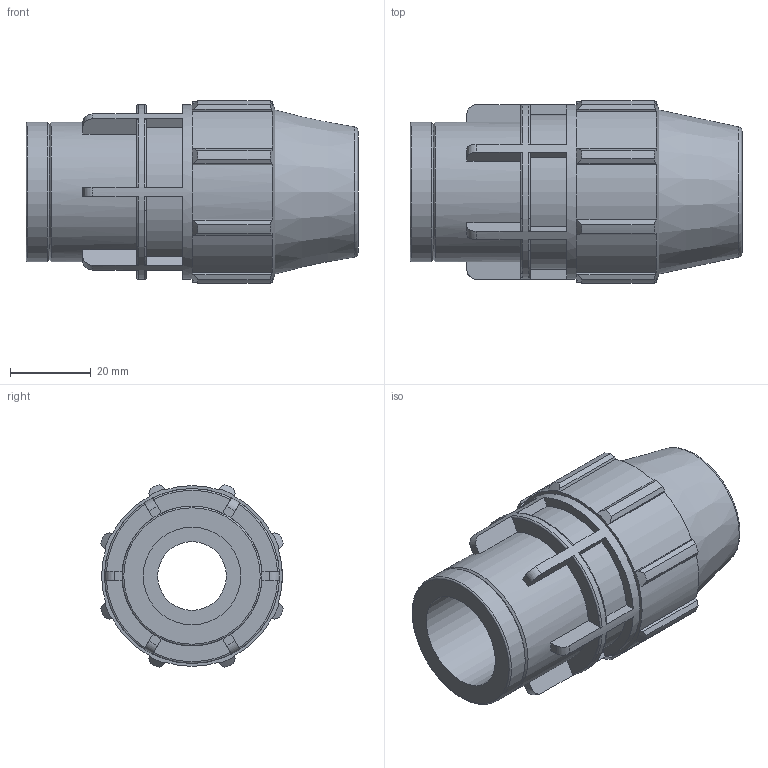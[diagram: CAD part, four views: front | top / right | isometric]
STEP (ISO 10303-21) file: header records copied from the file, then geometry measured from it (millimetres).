
FILE_DESCRIPTION(/* description */ ('PLASSON FEMALE ADAPTOR 1/2'''' - 3/4''''F'),/* implementation_level */ '2;1');
FILE_NAME(/* name */ 'C:\Dropbox\KIMPROJECTS-Inventor 2019\99-16-3568-Processing Inch\ASTM Compression 2021\0703M0\0703M0005007.ipt.stp',/* time_stamp */ '2021-08-26T12:30:37+03:00',/* author */ ('KIM'),/* organization */ (''),/* preprocessor_version */ 'ST-DEVELOPER v17.2',/* originating_system */ 'Autodesk Inventor 2019',/* authorisation */ '');
FILE_SCHEMA (('AUTOMOTIVE_DESIGN { 1 0 10303 214 3 1 1 }'));
Length unit declared in the file: inch
Products named in the file (1): 0703M0005007
Bounding box: 82.04 x 45.17 x 45.17 mm (x, y, z)
Volume: 66596.8 mm3; surface area: 19768.6 mm2
Topology: 1 solids, 1 shells, 148 faces, 420 edges, 284 vertices
Faces by surface type: plane 86, cylinder 28, torus 20, cone 14
Full cylindrical faces by diameter (mm): 16.96 x1, 21.2 x1, 24.117 x1, 34.564 x2, 43.205 x1
Entity records: 5308 total; most frequent: CARTESIAN_POINT 1241, ORIENTED_EDGE 840, DIRECTION 798, EDGE_CURVE 420, AXIS2_PLACEMENT_3D 297, VERTEX_POINT 284, LINE 204, VECTOR 204
